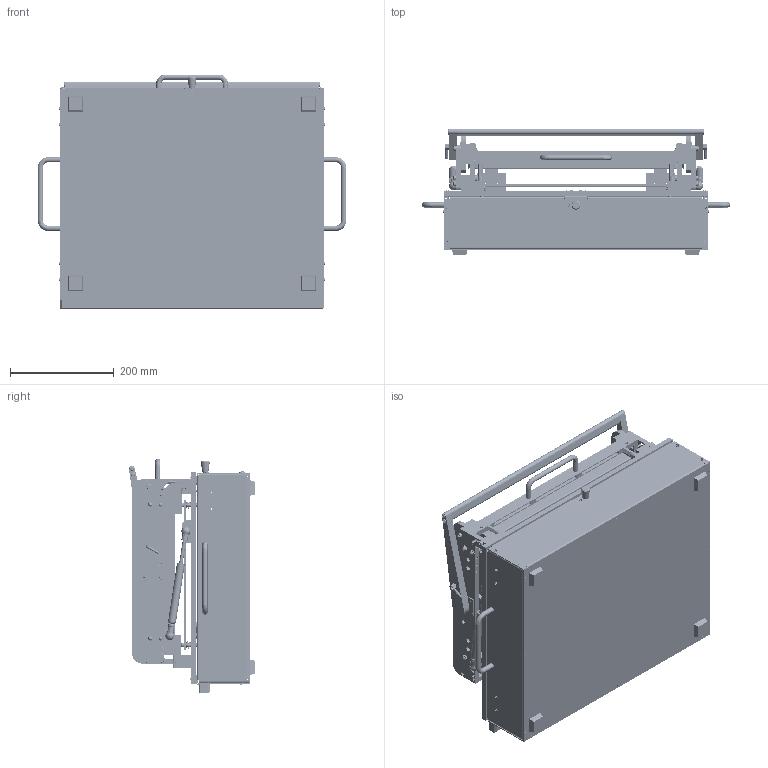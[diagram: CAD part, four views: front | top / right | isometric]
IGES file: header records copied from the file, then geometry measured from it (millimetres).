
Start section: SolidWorks IGES file using analytic representation for surfaces
Global section: file name: \\CODA-VM-SBS\RedirectedFolders\georged\Desktop\JIG CAD files\CGF Series\CGF3S SP\CGF3S SP.IGS; native system: SolidWorks 2022; preprocessor: SolidWorks 2022; author: GeorgeD; date: 220315.170738; units: millimetre
Bounding box: 594 x 242.96 x 452.35 mm (x, y, z)
Surface area: 2411304.4 mm2 (no closed solid volume)
Topology: 0 solids, 0 shells, 4871 faces, 61968 edges, 61941 vertices
Faces by surface type: bspline 3226, revolution 1645
